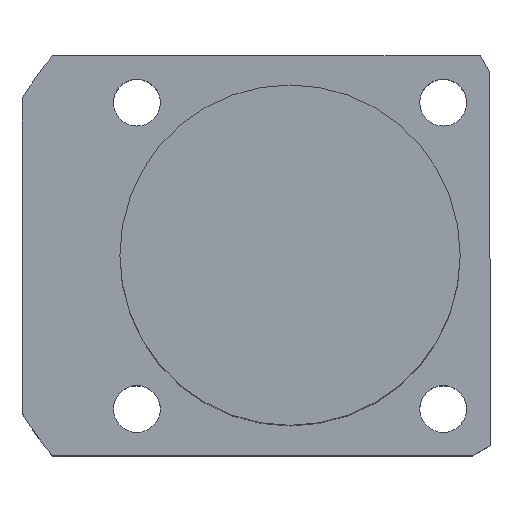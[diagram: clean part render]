
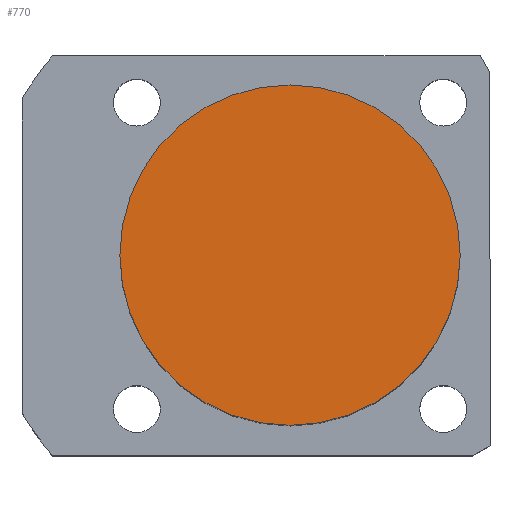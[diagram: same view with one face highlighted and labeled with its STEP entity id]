
A CAD part, top view. The second image highlights one B-rep face of the part: STEP entity #770.
In plain terms, the highlighted planar face has unit normal (0, 0, 1).
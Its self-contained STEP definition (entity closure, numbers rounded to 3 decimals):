
#438 = AXIS2_PLACEMENT_3D ( 'NONE', #1941, #4041, #3088 ) ;
#446 = EDGE_CURVE ( 'NONE', #1992, #4223, #3302, .T. ) ;
#770 = ADVANCED_FACE ( 'NONE', ( #968 ), #4109, .T. ) ;
#881 = EDGE_CURVE ( 'NONE', #4223, #1992, #3157, .T. ) ;
#968 = FACE_OUTER_BOUND ( 'NONE', #4052, .T. ) ;
#1124 = AXIS2_PLACEMENT_3D ( 'NONE', #2690, #1723, #1545 ) ;
#1242 = DIRECTION ( 'NONE',  ( 1., 0., 0. ) ) ;
#1545 = DIRECTION ( 'NONE',  ( 1., 0., 0. ) ) ;
#1580 = CARTESIAN_POINT ( 'NONE',  ( 0., 0., 56.5 ) ) ;
#1723 = DIRECTION ( 'NONE',  ( 0., 0., 1. ) ) ;
#1877 = ORIENTED_EDGE ( 'NONE', *, *, #446, .T. ) ;
#1941 = CARTESIAN_POINT ( 'NONE',  ( 0., 0., 56.5 ) ) ;
#1992 = VERTEX_POINT ( 'NONE', #3213 ) ;
#2690 = CARTESIAN_POINT ( 'NONE',  ( 0., 0., 56.5 ) ) ;
#2759 = CARTESIAN_POINT ( 'NONE',  ( -20., 0., 56.5 ) ) ;
#2773 = ORIENTED_EDGE ( 'NONE', *, *, #881, .T. ) ;
#3088 = DIRECTION ( 'NONE',  ( 1., 0., 0. ) ) ;
#3102 = AXIS2_PLACEMENT_3D ( 'NONE', #1580, #3721, #1242 ) ;
#3157 = CIRCLE ( 'NONE', #1124, 20. ) ;
#3213 = CARTESIAN_POINT ( 'NONE',  ( 20., 0., 56.5 ) ) ;
#3302 = CIRCLE ( 'NONE', #3102, 20. ) ;
#3721 = DIRECTION ( 'NONE',  ( 0., 0., 1. ) ) ;
#4041 = DIRECTION ( 'NONE',  ( 0., 0., 1. ) ) ;
#4052 = EDGE_LOOP ( 'NONE', ( #2773, #1877 ) ) ;
#4109 = PLANE ( 'NONE',  #438 ) ;
#4223 = VERTEX_POINT ( 'NONE', #2759 ) ;
